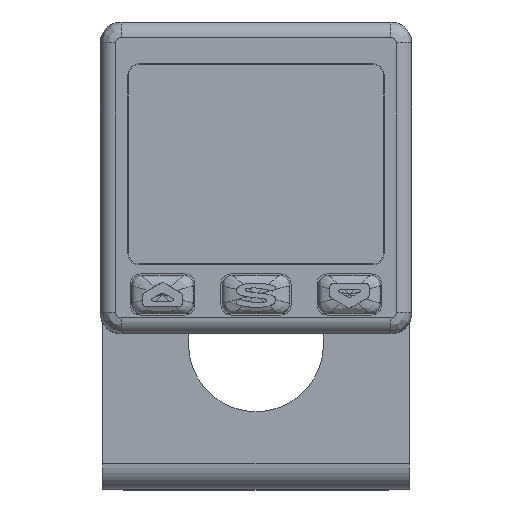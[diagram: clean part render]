
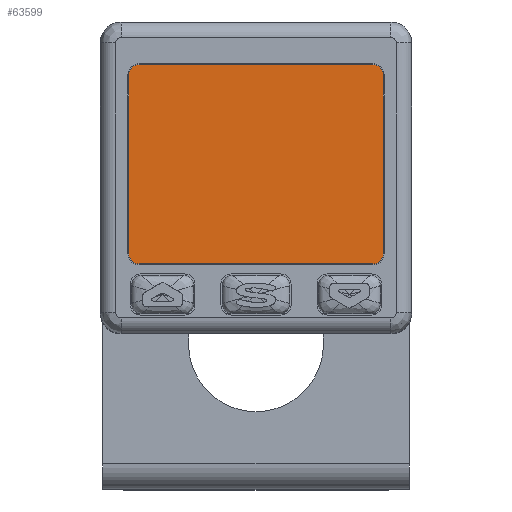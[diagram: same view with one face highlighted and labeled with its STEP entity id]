
A CAD part, top view. The second image highlights one B-rep face of the part: STEP entity #63599.
In plain terms, the highlighted planar face has unit normal (0, 0, 1).
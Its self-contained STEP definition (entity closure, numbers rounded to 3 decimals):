
#4034=CARTESIAN_POINT('',(11.25,-7.3,21.1));
#4035=DIRECTION('',(0.,0.,-1.));
#4036=DIRECTION('',(1.,0.,0.));
#4037=AXIS2_PLACEMENT_3D('',#4034,#4035,#4036);
#4039=DIRECTION('',(1.,0.,0.));
#4040=VECTOR('',#4039,22.5);
#4041=CARTESIAN_POINT('',(-11.25,-8.38,21.1));
#4042=LINE('',#4041,#4040);
#4043=CARTESIAN_POINT('',(-11.25,-7.3,21.1));
#4044=DIRECTION('',(0.,0.,-1.));
#4045=DIRECTION('',(0.,-1.,0.));
#4046=AXIS2_PLACEMENT_3D('',#4043,#4044,#4045);
#4048=DIRECTION('',(0.,1.,0.));
#4049=VECTOR('',#4048,17.2);
#4050=CARTESIAN_POINT('',(-12.33,-7.3,21.1));
#4051=LINE('',#4050,#4049);
#4052=CARTESIAN_POINT('',(-11.25,9.9,21.1));
#4053=DIRECTION('',(0.,0.,-1.));
#4054=DIRECTION('',(-1.,0.,0.));
#4055=AXIS2_PLACEMENT_3D('',#4052,#4053,#4054);
#4057=DIRECTION('',(1.,0.,0.));
#4058=VECTOR('',#4057,22.5);
#4059=CARTESIAN_POINT('',(-11.25,10.98,21.1));
#4060=LINE('',#4059,#4058);
#4061=CARTESIAN_POINT('',(11.25,9.9,21.1));
#4062=DIRECTION('',(0.,0.,-1.));
#4063=DIRECTION('',(0.,1.,0.));
#4064=AXIS2_PLACEMENT_3D('',#4061,#4062,#4063);
#4066=DIRECTION('',(0.,1.,0.));
#4067=VECTOR('',#4066,17.2);
#4068=CARTESIAN_POINT('',(12.33,-7.3,21.1));
#4069=LINE('',#4068,#4067);
#57994=CARTESIAN_POINT('',(12.33,-7.3,21.1));
#57995=CARTESIAN_POINT('',(11.25,-8.38,21.1));
#57996=VERTEX_POINT('',#57994);
#57997=VERTEX_POINT('',#57995);
#57998=CARTESIAN_POINT('',(-11.25,10.98,21.1));
#57999=CARTESIAN_POINT('',(11.25,10.98,21.1));
#58000=VERTEX_POINT('',#57998);
#58001=VERTEX_POINT('',#57999);
#58002=CARTESIAN_POINT('',(-11.25,-8.38,21.1));
#58003=CARTESIAN_POINT('',(-12.33,-7.3,21.1));
#58004=VERTEX_POINT('',#58002);
#58005=VERTEX_POINT('',#58003);
#58006=CARTESIAN_POINT('',(-12.33,9.9,21.1));
#58007=VERTEX_POINT('',#58006);
#58008=CARTESIAN_POINT('',(12.33,9.9,21.1));
#58009=VERTEX_POINT('',#58008);
#63577=CARTESIAN_POINT('',(0.,2.5,21.1));
#63578=DIRECTION('',(0.,0.,1.));
#63579=DIRECTION('',(1.,0.,0.));
#63580=AXIS2_PLACEMENT_3D('',#63577,#63578,#63579);
#63581=PLANE('',#63580);
#63583=ORIENTED_EDGE('',*,*,#63582,.T.);
#63585=ORIENTED_EDGE('',*,*,#63584,.F.);
#63587=ORIENTED_EDGE('',*,*,#63586,.T.);
#63588=ORIENTED_EDGE('',*,*,#63567,.T.);
#63590=ORIENTED_EDGE('',*,*,#63589,.T.);
#63592=ORIENTED_EDGE('',*,*,#63591,.T.);
#63594=ORIENTED_EDGE('',*,*,#63593,.T.);
#63596=ORIENTED_EDGE('',*,*,#63595,.F.);
#63597=EDGE_LOOP('',(#63583,#63585,#63587,#63588,#63590,#63592,#63594,#63596));
#63598=FACE_OUTER_BOUND('',#63597,.F.);
#63599=ADVANCED_FACE('',(#63598),#63581,.T.);
#4038=CIRCLE('',#4037,1.08);
#4047=CIRCLE('',#4046,1.08);
#4056=CIRCLE('',#4055,1.08);
#4065=CIRCLE('',#4064,1.08);
#63567=EDGE_CURVE('',#58005,#58007,#4051,.T.);
#63582=EDGE_CURVE('',#57996,#57997,#4038,.T.);
#63584=EDGE_CURVE('',#58004,#57997,#4042,.T.);
#63586=EDGE_CURVE('',#58004,#58005,#4047,.T.);
#63589=EDGE_CURVE('',#58007,#58000,#4056,.T.);
#63591=EDGE_CURVE('',#58000,#58001,#4060,.T.);
#63593=EDGE_CURVE('',#58001,#58009,#4065,.T.);
#63595=EDGE_CURVE('',#57996,#58009,#4069,.T.);
